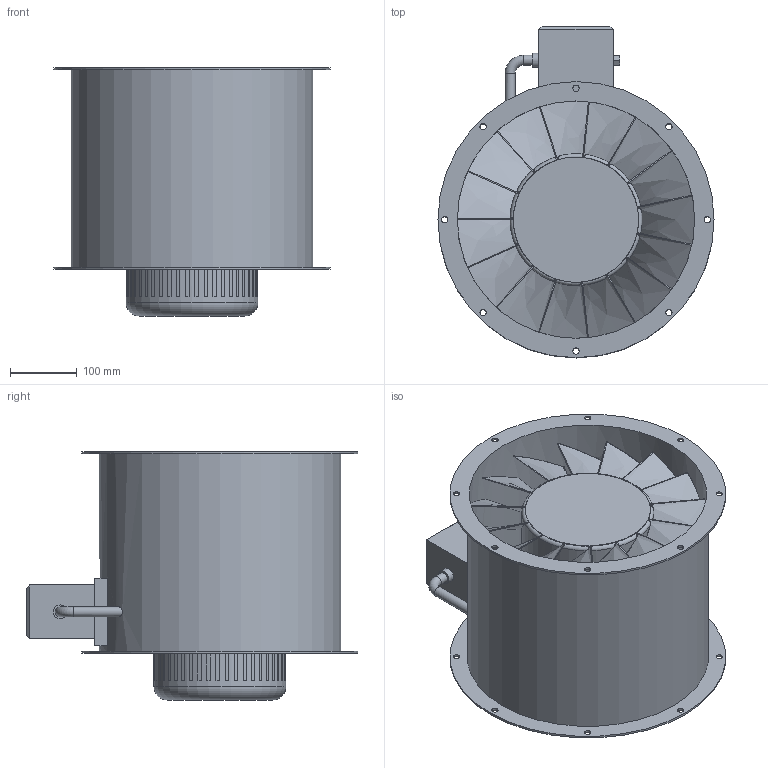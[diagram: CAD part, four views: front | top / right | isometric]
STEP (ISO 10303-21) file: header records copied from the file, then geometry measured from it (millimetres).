
FILE_DESCRIPTION(/* description */ (''),/* implementation_level */ '2;1');
FILE_NAME(/* name */ 'Z:\Output\AMD_355-2_1.1-03083-030.stp',/* time_stamp */ '2021-12-10T17:04:18+01:00',/* author */ ('engineering1'),/* organization */ (''),/* preprocessor_version */ 'ST-DEVELOPER v17.2',/* originating_system */ 'Autodesk Inventor 2019',/* authorisation */ '');
FILE_SCHEMA (('AUTOMOTIVE_DESIGN { 1 0 10303 214 3 1 1 }'));
Length unit declared in the file: millimetre
Products named in the file (1): AMD W
Bounding box: 415 x 499 x 373 mm (x, y, z)
Volume: 13602417.9 mm3; surface area: 1718674.2 mm2
Topology: 43 solids, 43 shells, 434 faces, 1021 edges, 645 vertices
Faces by surface type: plane 239, cylinder 133, bspline 45, torus 17
Full cylindrical faces by diameter (mm): 9.5 x16, 15 x3, 21 x1, 198.333 x1, 357 x1, 363 x1, 415 x2
Entity records: 13681 total; most frequent: CARTESIAN_POINT 3907, ORIENTED_EDGE 2042, DIRECTION 1870, EDGE_CURVE 1021, AXIS2_PLACEMENT_3D 673, VERTEX_POINT 645, LINE 524, VECTOR 524
